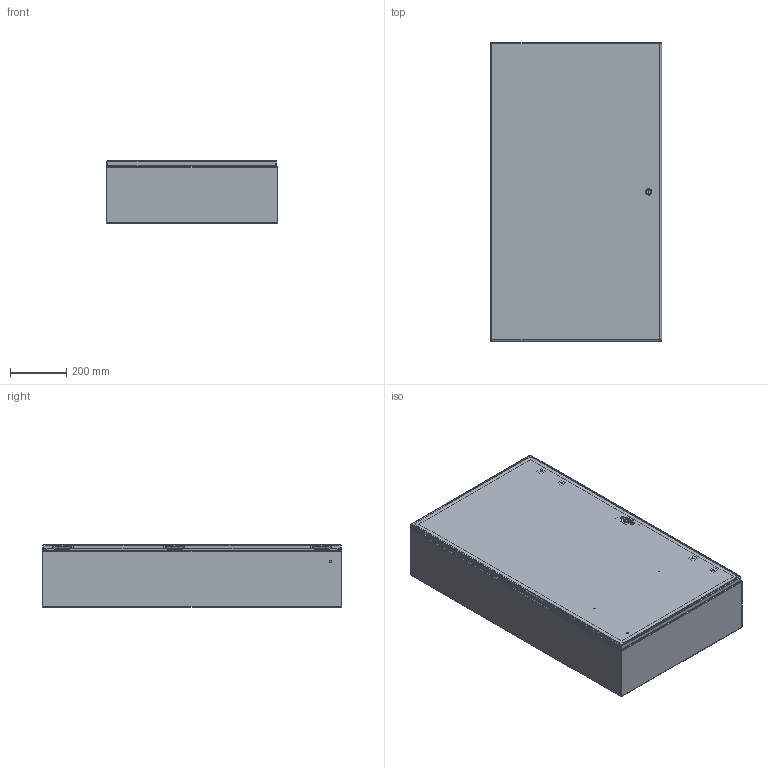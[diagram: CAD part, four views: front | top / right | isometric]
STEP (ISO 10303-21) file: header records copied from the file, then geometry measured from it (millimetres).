
FILE_DESCRIPTION (( 'STEP AP203' ), '1' );
FILE_NAME ('29418.step', '2015-03-30T06:24:24', ( '' ), ( '' ), 'SwSTEP 2.0', 'SolidWorks 2010', '' );
FILE_SCHEMA (( 'CONFIG_CONTROL_DESIGN' ));
Products named in the file (32): 29418; 89117029; 89117027_default; 89117026_default; 89117025_default; 23271001_After Weld; 89117033_assy; 89117032_weldment; 89117030; 99401225; 87931362_87931362; 87408407_Unlocked; 64102001_Latch Open; 87540678; 64210001; 64202001; 64208001; 64205001; 87541995; 87541994_Installed Height; 64206004; 64207001; 64103001; 99411834; 89117034; 87543027; 89076399; 89076193; 89056623; 87929507; 87929767; 87929769_Installed on Pin
Assembly tree (51 placements, depth 5):
  29418
    89076399  x3
      89056623
      89076193
    87929507  x3
      87929769_Installed on Pin
      87929767
    87543027  x3
    89117029
      23271001_After Weld  x6
      99401225
      89117025_default
      89117026_default
      89117027_default
    89117033_assy
      87408407_Unlocked
        99411834  x2
        64207001  x2
        64103001  x4
        64102001_Latch Open
          87540678
          87541994_Installed Height
          64205001  x2
          87541995
          64208001
          64210001
          64202001
        64206004  x2
      89117032_weldment
        87931362_87931362  x2
        89117030
        99401225
      89117034
Bounding box: 609.6 x 1066.8 x 223.9 mm (x, y, z)
Volume: 4194775.7 mm3; surface area: 4473561.3 mm2
Topology: 49 solids, 49 shells, 3294 faces, 8571 edges, 5400 vertices
Faces by surface type: plane 1478, cylinder 904, bspline 626, torus 163, cone 87, sphere 36
Entity records: 72622 total; most frequent: CARTESIAN_POINT 25848, ORIENTED_EDGE 9378, DIRECTION 8215, EDGE_CURVE 4689, VERTEX_POINT 2965, AXIS2_PLACEMENT_3D 2772, LINE 2671, VECTOR 2671
